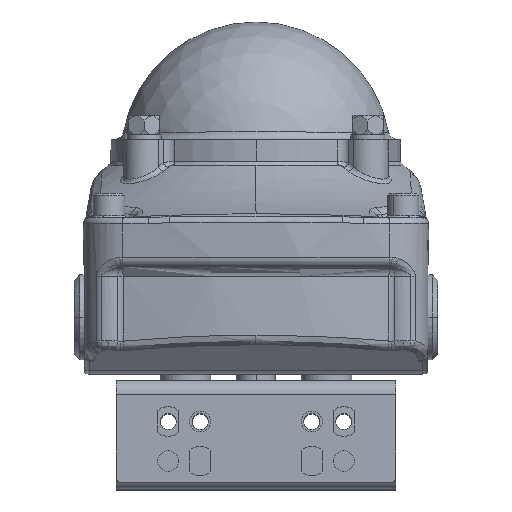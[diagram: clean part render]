
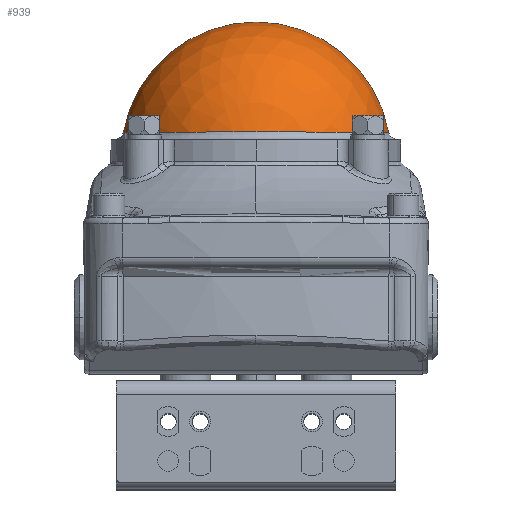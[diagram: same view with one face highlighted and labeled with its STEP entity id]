
A CAD part, top view. The second image highlights one B-rep face of the part: STEP entity #939.
In plain terms, the highlighted spherical face has radius 33.782 mm.
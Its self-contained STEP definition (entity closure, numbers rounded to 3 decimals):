
#247 = AXIS2_PLACEMENT_3D ( 'NONE', #7324, #10601, #26797 ) ;
#695 = CARTESIAN_POINT ( 'NONE',  ( 0., 45.352, -13.538 ) ) ;
#939 = ADVANCED_FACE ( 'NONE', ( #41440 ), #9822, .T. ) ;
#942 = ORIENTED_EDGE ( 'NONE', *, *, #38691, .T. ) ;
#1380 = VERTEX_POINT ( 'NONE', #16163 ) ;
#4985 = CARTESIAN_POINT ( 'NONE',  ( -33.213, 51.524, -13.538 ) ) ;
#5340 = CIRCLE ( 'NONE', #37884, 33.782 ) ;
#7226 = AXIS2_PLACEMENT_3D ( 'NONE', #11684, #14919, #15061 ) ;
#7324 = CARTESIAN_POINT ( 'NONE',  ( 0., 45.352, -13.538 ) ) ;
#8610 = DIRECTION ( 'NONE',  ( -1., 0., 0. ) ) ;
#9822 = SPHERICAL_SURFACE ( 'NONE', #18825, 33.782 ) ;
#10601 = DIRECTION ( 'NONE',  ( 0., 0., 1. ) ) ;
#11684 = CARTESIAN_POINT ( 'NONE',  ( 0., 51.524, -13.538 ) ) ;
#14919 = DIRECTION ( 'NONE',  ( 0., 1., 0. ) ) ;
#15061 = DIRECTION ( 'NONE',  ( 1., 0., 0. ) ) ;
#16092 = ORIENTED_EDGE ( 'NONE', *, *, #33184, .F. ) ;
#16163 = CARTESIAN_POINT ( 'NONE',  ( 0., 79.134, -13.538 ) ) ;
#17050 = DIRECTION ( 'NONE',  ( 0., 0., -1. ) ) ;
#18825 = AXIS2_PLACEMENT_3D ( 'NONE', #695, #36072, #20134 ) ;
#20134 = DIRECTION ( 'NONE',  ( -1., 0., 0. ) ) ;
#20183 = ORIENTED_EDGE ( 'NONE', *, *, #39896, .T. ) ;
#26069 = EDGE_LOOP ( 'NONE', ( #942, #20183, #16092 ) ) ;
#26797 = DIRECTION ( 'NONE',  ( 1., 0., 0. ) ) ;
#27050 = CARTESIAN_POINT ( 'NONE',  ( 33.213, 51.524, -13.538 ) ) ;
#30330 = CIRCLE ( 'NONE', #247, 33.782 ) ;
#32055 = CIRCLE ( 'NONE', #7226, 33.213 ) ;
#33184 = EDGE_CURVE ( 'NONE', #37113, #1380, #5340, .T. ) ;
#33674 = VERTEX_POINT ( 'NONE', #27050 ) ;
#36072 = DIRECTION ( 'NONE',  ( 0., 0., 1. ) ) ;
#37113 = VERTEX_POINT ( 'NONE', #4985 ) ;
#37884 = AXIS2_PLACEMENT_3D ( 'NONE', #40421, #17050, #8610 ) ;
#38691 = EDGE_CURVE ( 'NONE', #37113, #33674, #32055, .T. ) ;
#39896 = EDGE_CURVE ( 'NONE', #33674, #1380, #30330, .T. ) ;
#40421 = CARTESIAN_POINT ( 'NONE',  ( 0., 45.352, -13.538 ) ) ;
#41440 = FACE_OUTER_BOUND ( 'NONE', #26069, .T. ) ;
